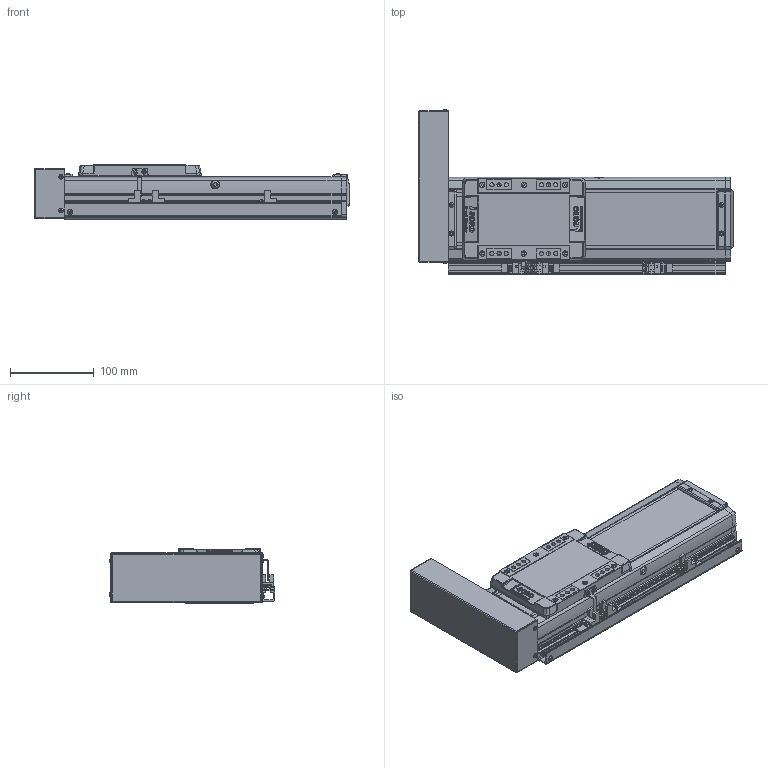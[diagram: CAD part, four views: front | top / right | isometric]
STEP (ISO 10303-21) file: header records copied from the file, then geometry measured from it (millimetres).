
FILE_DESCRIPTION(('STEP AP214'),'1');
FILE_NAME('Z:/Web/3D/SAN100/SAN100 양산용 (STEP)/SAN100ㅁㅁ-150PL+3SR.stp','2013-04-24T07:28:03',(' '),(' '),'Spatial InterOp 3D',' ',' ');
FILE_SCHEMA(('automotive_design'));
Length unit declared in the file: millimetre
Products named in the file (47): BTCV-SAN65; BHCS M3 X 6L; SUS COVER; SFX-SAN100; RRCV-SAN100; 스크루 : Round - M4.0 x 10.0; M3.0 x 6.0; 스크루 : Round - M3.0 x 6.0; FRBL-SAN100; SLBL-SAN100; SLCV-SAN100; 스크루 : Countersunk - M3.0 x 6.0; BASE; 스크루 : Round - M5.0 x 6.0; EE-SX674; SBK-SX674-352; SRL-16x17-380L; SGD-SAN100
Bounding box: 376.5 x 197.06 x 66 mm (x, y, z)
Volume: 1464077.7 mm3; surface area: 375332.4 mm2
Topology: 47 solids, 48 shells, 2271 faces, 5914 edges, 3835 vertices
Faces by surface type: plane 1254, cylinder 749, cone 174, sphere 60, torus 18, bspline 16
Entity records: 89384 total; most frequent: CARTESIAN_POINT 13177, DIRECTION 12425, ORIENTED_EDGE 11680, EDGE_CURVE 5840, AXIS2_PLACEMENT_3D 4352, VERTEX_POINT 3835, LINE 3721, VECTOR 3721
